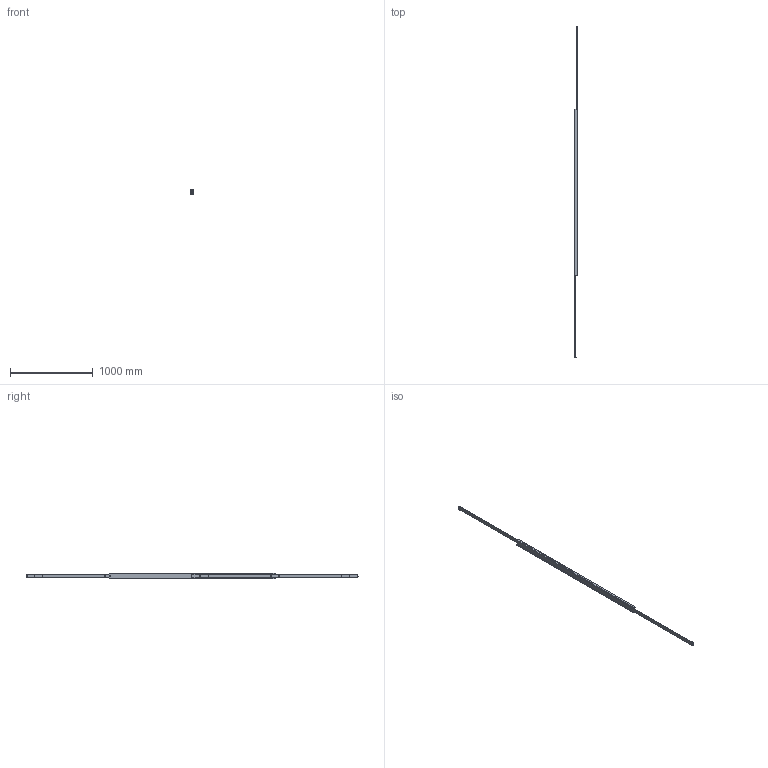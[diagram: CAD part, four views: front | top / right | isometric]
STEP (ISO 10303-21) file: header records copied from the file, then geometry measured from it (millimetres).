
FILE_DESCRIPTION(/* description */ (''),/* implementation_level */ '2;1');
FILE_NAME(/* name */ 'C:\Users\Miluxor\Desktop\Miluxor Schienen\Original Zeichnungen\Zeichnungen Schienen Komplett\MX-DTP70\MX-DTP70.200\MX-DTP70.200_ausgefahren.stp',/* time_stamp */ '2020-11-28T15:58:34+01:00',/* author */ ('Miluxor'),/* organization */ (''),/* preprocessor_version */ 'ST-DEVELOPER v16.13',/* originating_system */ 'AutoCAD Mechanical',/* authorisation */ '');
FILE_SCHEMA (('AUTOMOTIVE_DESIGN { 1 0 10303 214 3 1 1 }'));
Length unit declared in the file: millimetre
Products named in the file (1): Product
Bounding box: 32 x 4000.33 x 70 mm (x, y, z)
Volume: 3422484.1 mm3; surface area: 1213720.5 mm2
Topology: 117 solids, 119 shells, 246 faces, 912 edges, 680 vertices
Faces by surface type: sphere 112, plane 82, cylinder 38, bspline 8, torus 6
Full cylindrical faces by diameter (mm): 8 x24, 13 x2
Entity records: 15784 total; most frequent: CARTESIAN_POINT 8344, DIRECTION 1538, ORIENTED_EDGE 1052, VERTEX_POINT 678, AXIS2_PLACEMENT_3D 663, EDGE_CURVE 654, EDGE_LOOP 554, CIRCLE 420
